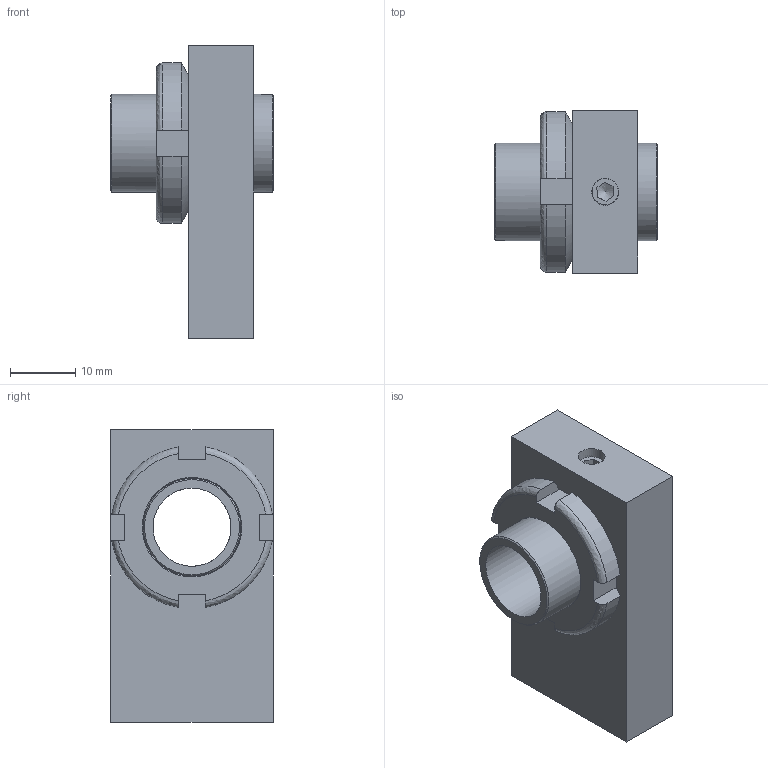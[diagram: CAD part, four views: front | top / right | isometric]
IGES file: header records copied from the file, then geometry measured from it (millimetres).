
Global section: file name: 03.55-A; native system: Autodesk Inventor 2014; preprocessor: unknown; author: APto; date: 20150401.093542; units: millimetre
Bounding box: 25 x 25 x 45 mm (x, y, z)
Volume: 12312.7 mm3; surface area: 7580.9 mm2
Topology: 4 solids, 4 shells, 59 faces, 158 edges, 106 vertices
Faces by surface type: bspline 59
